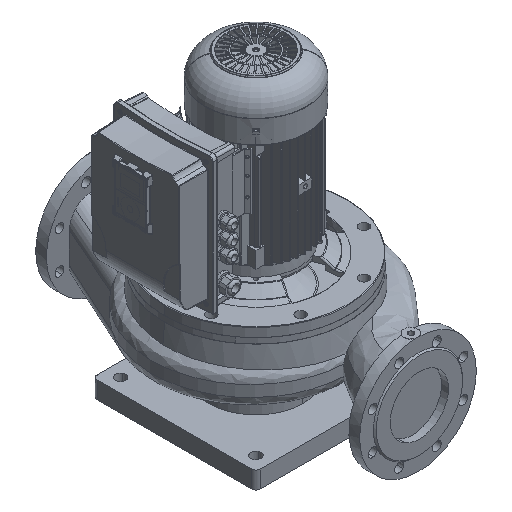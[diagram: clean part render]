
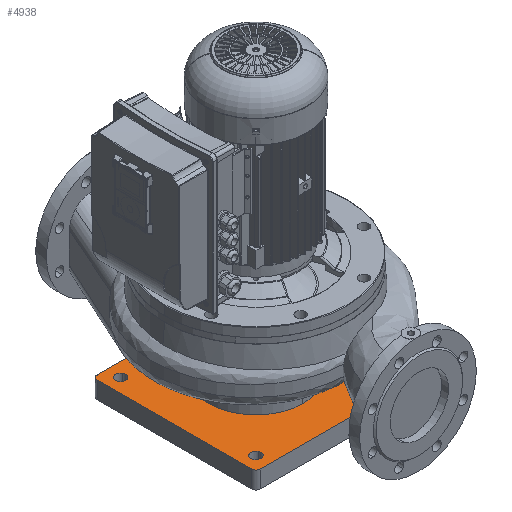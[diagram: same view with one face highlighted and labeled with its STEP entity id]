
A CAD part, isometric view. The second image highlights one B-rep face of the part: STEP entity #4938.
In plain terms, the highlighted planar face has unit normal (0, 0, 1).
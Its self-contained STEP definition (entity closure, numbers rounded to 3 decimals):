
#4938=ADVANCED_FACE('',(#11338,#11339,#11340,#11341,#11342),#11343,.T.);
#11338=FACE_OUTER_BOUND('',#22591,.T.);
#11339=FACE_BOUND('',#22592,.T.);
#11340=FACE_BOUND('',#22593,.T.);
#11341=FACE_BOUND('',#22594,.T.);
#11342=FACE_BOUND('',#22595,.T.);
#11343=PLANE('',#22596);
#22591=EDGE_LOOP('',(#44438,#44439,#44440,#44441,#44442,#44443,#44444,#44445));
#22592=EDGE_LOOP('',(#44446,#44447));
#22593=EDGE_LOOP('',(#44448,#44449));
#22594=EDGE_LOOP('',(#44450,#44451));
#22595=EDGE_LOOP('',(#44452,#44453));
#22596=AXIS2_PLACEMENT_3D('',#44454,#44455,#44456);
#44438=ORIENTED_EDGE('',*,*,#79181,.F.);
#44439=ORIENTED_EDGE('',*,*,#79203,.F.);
#44440=ORIENTED_EDGE('',*,*,#79200,.F.);
#44441=ORIENTED_EDGE('',*,*,#79197,.F.);
#44442=ORIENTED_EDGE('',*,*,#79194,.F.);
#44443=ORIENTED_EDGE('',*,*,#79191,.F.);
#44444=ORIENTED_EDGE('',*,*,#79188,.F.);
#44445=ORIENTED_EDGE('',*,*,#79185,.F.);
#44446=ORIENTED_EDGE('',*,*,#79179,.F.);
#44447=ORIENTED_EDGE('',*,*,#79159,.F.);
#44448=ORIENTED_EDGE('',*,*,#79177,.F.);
#44449=ORIENTED_EDGE('',*,*,#79163,.F.);
#44450=ORIENTED_EDGE('',*,*,#79175,.F.);
#44451=ORIENTED_EDGE('',*,*,#79167,.F.);
#44452=ORIENTED_EDGE('',*,*,#79173,.F.);
#44453=ORIENTED_EDGE('',*,*,#79171,.F.);
#44454=CARTESIAN_POINT('',(-662.85,423.25,37.0));
#44455=DIRECTION('',(0.0,0.0,1.0));
#44456=DIRECTION('',(1.0,0.0,0.0));
#79159=EDGE_CURVE('',#101759,#101757,#101761,.T.);
#79163=EDGE_CURVE('',#101765,#101763,#101767,.T.);
#79167=EDGE_CURVE('',#101771,#101769,#101773,.T.);
#79171=EDGE_CURVE('',#101777,#101775,#101779,.T.);
#79173=EDGE_CURVE('',#101775,#101777,#101781,.T.);
#79175=EDGE_CURVE('',#101769,#101771,#101783,.T.);
#79177=EDGE_CURVE('',#101763,#101765,#101785,.T.);
#79179=EDGE_CURVE('',#101757,#101759,#101787,.T.);
#79181=EDGE_CURVE('',#101789,#101790,#101791,.T.);
#79185=EDGE_CURVE('',#101790,#101795,#101796,.T.);
#79188=EDGE_CURVE('',#101795,#101799,#101800,.T.);
#79191=EDGE_CURVE('',#101799,#101803,#101804,.T.);
#79194=EDGE_CURVE('',#101803,#101807,#101808,.T.);
#79197=EDGE_CURVE('',#101807,#101811,#101812,.T.);
#79200=EDGE_CURVE('',#101811,#101815,#101816,.T.);
#79203=EDGE_CURVE('',#101815,#101789,#101819,.T.);
#101757=VERTEX_POINT('',#120289);
#101759=VERTEX_POINT('',#120292);
#101761=CIRCLE('',#120295,11.0);
#101763=VERTEX_POINT('',#120297);
#101765=VERTEX_POINT('',#120300);
#101767=CIRCLE('',#120303,11.0);
#101769=VERTEX_POINT('',#120305);
#101771=VERTEX_POINT('',#120308);
#101773=CIRCLE('',#120311,11.0);
#101775=VERTEX_POINT('',#120313);
#101777=VERTEX_POINT('',#120316);
#101779=CIRCLE('',#120319,11.0);
#101781=CIRCLE('',#120321,11.0);
#101783=CIRCLE('',#120323,11.0);
#101785=CIRCLE('',#120325,11.0);
#101787=CIRCLE('',#120327,11.0);
#101789=VERTEX_POINT('',#120329);
#101790=VERTEX_POINT('',#120330);
#101791=CIRCLE('',#120331,10.0);
#101795=VERTEX_POINT('',#120337);
#101796=LINE('',#120338,#120339);
#101799=VERTEX_POINT('',#120343);
#101800=CIRCLE('',#120344,10.0);
#101803=VERTEX_POINT('',#120348);
#101804=LINE('',#120349,#120350);
#101807=VERTEX_POINT('',#120354);
#101808=CIRCLE('',#120355,10.0);
#101811=VERTEX_POINT('',#120359);
#101812=LINE('',#120360,#120361);
#101815=VERTEX_POINT('',#120365);
#101816=CIRCLE('',#120366,10.0);
#101819=LINE('',#120370,#120371);
#120289=CARTESIAN_POINT('',(-631.85,103.25,37.0));
#120292=CARTESIAN_POINT('',(-653.85,103.25,37.0));
#120295=AXIS2_PLACEMENT_3D('',#153518,#153519,#153520);
#120297=CARTESIAN_POINT('',(-362.438,97.859,37.0));
#120300=CARTESIAN_POINT('',(-343.262,108.641,37.0));
#120303=AXIS2_PLACEMENT_3D('',#153523,#153524,#153525);
#120305=CARTESIAN_POINT('',(-635.072,385.472,37.0));
#120308=CARTESIAN_POINT('',(-650.628,401.028,37.0));
#120311=AXIS2_PLACEMENT_3D('',#153528,#153529,#153530);
#120313=CARTESIAN_POINT('',(-362.556,388.075,37.0));
#120316=CARTESIAN_POINT('',(-343.144,398.425,37.0));
#120319=AXIS2_PLACEMENT_3D('',#153533,#153534,#153535);
#120321=AXIS2_PLACEMENT_3D('',#153536,#153537,#153538);
#120323=AXIS2_PLACEMENT_3D('',#153539,#153540,#153541);
#120325=AXIS2_PLACEMENT_3D('',#153542,#153543,#153544);
#120327=AXIS2_PLACEMENT_3D('',#153545,#153546,#153547);
#120329=CARTESIAN_POINT('',(-332.85,423.25,37.0));
#120330=CARTESIAN_POINT('',(-322.85,413.25,37.0));
#120331=AXIS2_PLACEMENT_3D('',#153548,#153549,#153550);
#120337=CARTESIAN_POINT('',(-322.85,83.25,37.0));
#120338=CARTESIAN_POINT('',(-322.85,83.25,37.0));
#120339=VECTOR('',#153553,1.0);
#120343=CARTESIAN_POINT('',(-332.85,73.25,37.0));
#120344=AXIS2_PLACEMENT_3D('',#153555,#153556,#153557);
#120348=CARTESIAN_POINT('',(-662.85,73.25,37.0));
#120349=CARTESIAN_POINT('',(-662.85,73.25,37.0));
#120350=VECTOR('',#153559,1.0);
#120354=CARTESIAN_POINT('',(-672.85,83.25,37.0));
#120355=AXIS2_PLACEMENT_3D('',#153561,#153562,#153563);
#120359=CARTESIAN_POINT('',(-672.85,413.25,37.0));
#120360=CARTESIAN_POINT('',(-672.85,413.25,37.0));
#120361=VECTOR('',#153565,1.0);
#120365=CARTESIAN_POINT('',(-662.85,423.25,37.0));
#120366=AXIS2_PLACEMENT_3D('',#153567,#153568,#153569);
#120370=CARTESIAN_POINT('',(-662.85,423.25,37.0));
#120371=VECTOR('',#153571,1.0);
#153518=CARTESIAN_POINT('',(-642.85,103.25,37.0));
#153519=DIRECTION('',(0.0,0.0,1.0));
#153520=DIRECTION('',(1.0,0.0,0.0));
#153523=CARTESIAN_POINT('',(-352.85,103.25,37.0));
#153524=DIRECTION('',(0.0,0.0,1.0));
#153525=DIRECTION('',(-0.872,-0.49,0.0));
#153528=CARTESIAN_POINT('',(-642.85,393.25,37.0));
#153529=DIRECTION('',(0.0,0.0,1.0));
#153530=DIRECTION('',(0.707,-0.707,0.0));
#153533=CARTESIAN_POINT('',(-352.85,393.25,37.0));
#153534=DIRECTION('',(0.0,0.0,1.0));
#153535=DIRECTION('',(-0.882,-0.47,0.0));
#153536=CARTESIAN_POINT('',(-352.85,393.25,37.0));
#153537=DIRECTION('',(0.0,0.0,1.0));
#153538=DIRECTION('',(-0.882,-0.47,0.0));
#153539=CARTESIAN_POINT('',(-642.85,393.25,37.0));
#153540=DIRECTION('',(0.0,0.0,1.0));
#153541=DIRECTION('',(0.707,-0.707,0.0));
#153542=CARTESIAN_POINT('',(-352.85,103.25,37.0));
#153543=DIRECTION('',(0.0,0.0,1.0));
#153544=DIRECTION('',(-0.872,-0.49,0.0));
#153545=CARTESIAN_POINT('',(-642.85,103.25,37.0));
#153546=DIRECTION('',(0.0,0.0,1.0));
#153547=DIRECTION('',(1.0,0.0,0.0));
#153548=CARTESIAN_POINT('',(-332.85,413.25,37.0));
#153549=DIRECTION('',(0.0,0.0,-1.0));
#153550=DIRECTION('',(0.0,1.0,0.0));
#153553=DIRECTION('',(0.,-1.0,0.0));
#153555=CARTESIAN_POINT('',(-332.85,83.25,37.0));
#153556=DIRECTION('',(-0.0,-0.0,-1.0));
#153557=DIRECTION('',(0.0,-1.0,0.0));
#153559=DIRECTION('',(-1.0,-0.0,-0.0));
#153561=CARTESIAN_POINT('',(-662.85,83.25,37.0));
#153562=DIRECTION('',(-0.0,0.0,-1.0));
#153563=DIRECTION('',(-1.0,0.0,0.0));
#153565=DIRECTION('',(0.0,1.0,0.0));
#153567=CARTESIAN_POINT('',(-662.85,413.25,37.0));
#153568=DIRECTION('',(0.0,0.0,-1.0));
#153569=DIRECTION('',(0.0,1.0,0.0));
#153571=DIRECTION('',(1.0,0.0,0.0));
